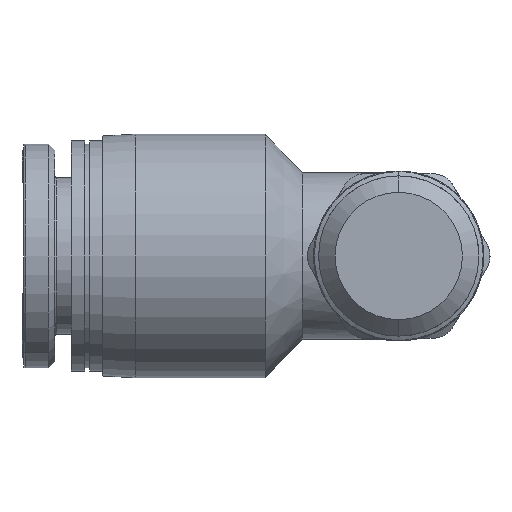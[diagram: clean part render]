
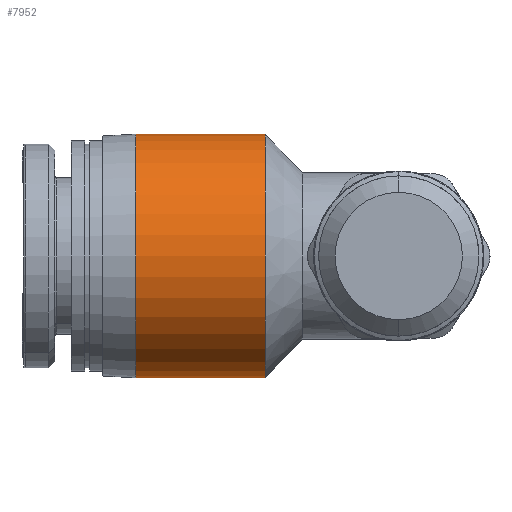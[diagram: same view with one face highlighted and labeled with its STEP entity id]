
A CAD part, front view. The second image highlights one B-rep face of the part: STEP entity #7952.
In plain terms, the highlighted cylindrical face has radius 7.4 mm (diameter 14.8 mm), a partial arc.
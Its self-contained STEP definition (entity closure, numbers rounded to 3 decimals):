
#10 = CARTESIAN_POINT ( 'NONE',  ( 7.876, 0., 7.4 ) ) ;
#61 = CARTESIAN_POINT ( 'NONE',  ( 0., 0., 7.4 ) ) ;
#247 = VECTOR ( 'NONE', #7555, 1000. ) ;
#295 = EDGE_CURVE ( 'NONE', #2713, #4098, #2134, .T. ) ;
#822 = FACE_OUTER_BOUND ( 'NONE', #7458, .T. ) ;
#856 = EDGE_CURVE ( 'NONE', #7261, #4098, #3763, .T. ) ;
#931 = CARTESIAN_POINT ( 'NONE',  ( 7.876, 0., -7.4 ) ) ;
#1120 = DIRECTION ( 'NONE',  ( 0., 0., 1. ) ) ;
#1172 = DIRECTION ( 'NONE',  ( 0., 0., 1. ) ) ;
#1230 = DIRECTION ( 'NONE',  ( -1., 0., 0. ) ) ;
#1410 = CYLINDRICAL_SURFACE ( 'NONE', #6648, 7.4 ) ;
#1548 = DIRECTION ( 'NONE',  ( -1., 0., 0. ) ) ;
#1695 = CARTESIAN_POINT ( 'NONE',  ( -3.9, 0., 7.4 ) ) ;
#1809 = CARTESIAN_POINT ( 'NONE',  ( 7.876, 0., 0. ) ) ;
#2134 = CIRCLE ( 'NONE', #8068, 7.4 ) ;
#2261 = AXIS2_PLACEMENT_3D ( 'NONE', #1809, #3864, #1120 ) ;
#2376 = VERTEX_POINT ( 'NONE', #931 ) ;
#2690 = EDGE_CURVE ( 'NONE', #2376, #2713, #2891, .T. ) ;
#2713 = VERTEX_POINT ( 'NONE', #8929 ) ;
#2740 = ORIENTED_EDGE ( 'NONE', *, *, #856, .T. ) ;
#2891 = LINE ( 'NONE', #4780, #247 ) ;
#3668 = DIRECTION ( 'NONE',  ( 0., 0., 1. ) ) ;
#3763 = LINE ( 'NONE', #1695, #4660 ) ;
#3864 = DIRECTION ( 'NONE',  ( -1., 0., 0. ) ) ;
#3893 = ORIENTED_EDGE ( 'NONE', *, *, #4943, .T. ) ;
#4098 = VERTEX_POINT ( 'NONE', #61 ) ;
#4643 = CIRCLE ( 'NONE', #2261, 7.4 ) ;
#4660 = VECTOR ( 'NONE', #5973, 1000. ) ;
#4780 = CARTESIAN_POINT ( 'NONE',  ( -3.9, 0., -7.4 ) ) ;
#4943 = EDGE_CURVE ( 'NONE', #2376, #7261, #4643, .T. ) ;
#5973 = DIRECTION ( 'NONE',  ( -1., 0., 0. ) ) ;
#6648 = AXIS2_PLACEMENT_3D ( 'NONE', #8004, #1548, #3668 ) ;
#6801 = CARTESIAN_POINT ( 'NONE',  ( 0., 0., 0. ) ) ;
#6819 = ORIENTED_EDGE ( 'NONE', *, *, #2690, .F. ) ;
#7261 = VERTEX_POINT ( 'NONE', #10 ) ;
#7458 = EDGE_LOOP ( 'NONE', ( #6819, #3893, #2740, #8769 ) ) ;
#7555 = DIRECTION ( 'NONE',  ( -1., 0., 0. ) ) ;
#7952 = ADVANCED_FACE ( 'NONE', ( #822 ), #1410, .T. ) ;
#8004 = CARTESIAN_POINT ( 'NONE',  ( -3.9, 0., 0. ) ) ;
#8068 = AXIS2_PLACEMENT_3D ( 'NONE', #6801, #1230, #1172 ) ;
#8769 = ORIENTED_EDGE ( 'NONE', *, *, #295, .F. ) ;
#8929 = CARTESIAN_POINT ( 'NONE',  ( 0., 0., -7.4 ) ) ;
